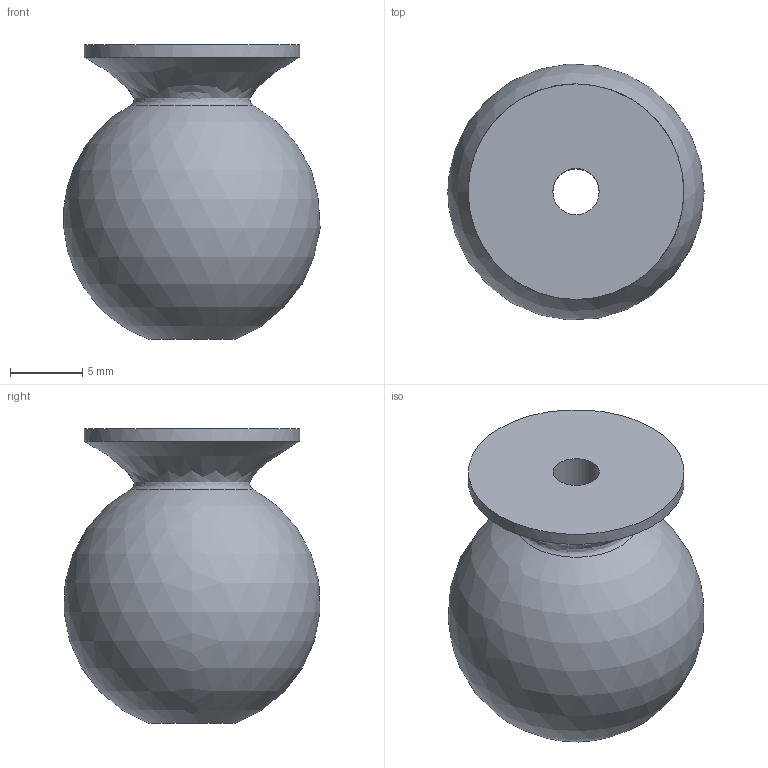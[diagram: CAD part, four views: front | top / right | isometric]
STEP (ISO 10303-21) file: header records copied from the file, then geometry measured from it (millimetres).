
FILE_DESCRIPTION(('FreeCAD Model'),'2;1');
FILE_NAME('Open CASCADE Shape Model','2025-01-22T14:20:13',(''),(''), 'Open CASCADE STEP processor 7.6','FreeCAD','Unknown');
FILE_SCHEMA(('AUTOMOTIVE_DESIGN { 1 0 10303 214 1 1 1 1 }'));
Length unit declared in the file: millimetre
Products named in the file (1): Body
Bounding box: 17.75 x 17.71 x 20.38 mm (x, y, z)
Volume: 3122.2 mm3; surface area: 1544.6 mm2
Topology: 1 solids, 1 shells, 7 faces, 15 edges, 10 vertices
Faces by surface type: cylinder 3, plane 2, bspline 1, sphere 1
Full cylindrical faces by diameter (mm): 3.2 x1, 6 x1, 14.933 x1
Entity records: 380 total; most frequent: CARTESIAN_POINT 199, DIRECTION 35, ORIENTED_EDGE 30, AXIS2_PLACEMENT_3D 16, EDGE_CURVE 15, VERTEX_POINT 10, FACE_BOUND 9, EDGE_LOOP 9
